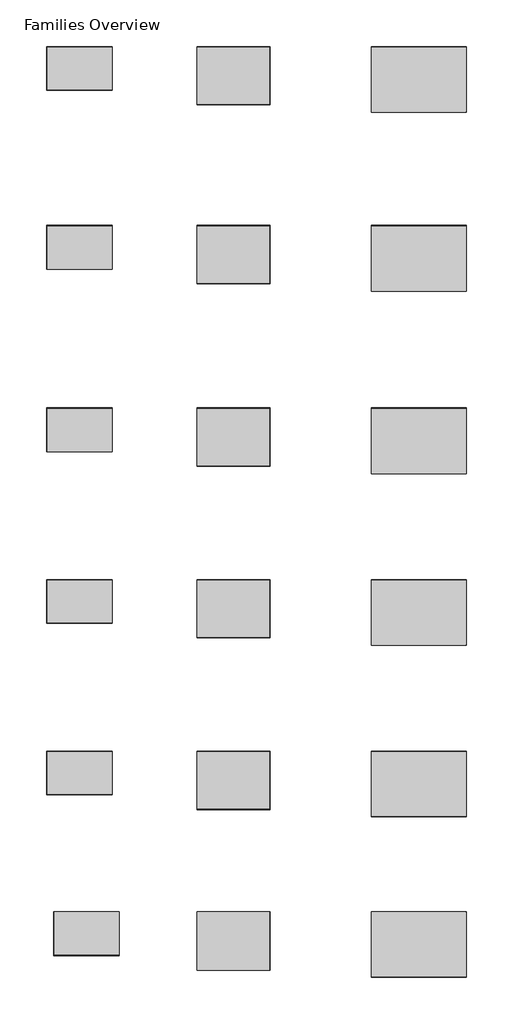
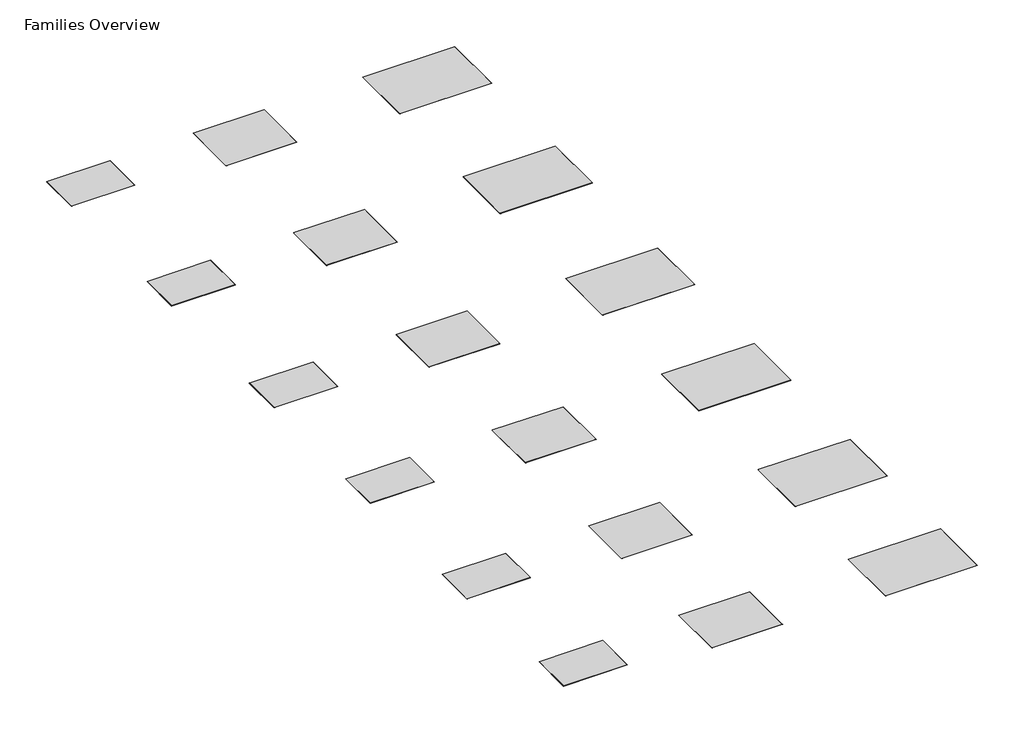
# One storey: 18 furniture elements.
"""IFC4 building model written with IfcOpenShell, lengths in millimetres."""

from ifc_helpers import new_model, si_unit, origin, place, context, project, spatial, transform, mapped, element, save
from components import furniture_6ft_x_9ft_9712701d, furniture_6ft_x_9ft_4e608421, furniture_8ft_x_10ft_1f9c8995, furniture_8ft_x_10ft_a33dcf98, furniture_9ft_x_13ft_89a116fc, furniture_9ft_x_13ft_9fe98341

model = new_model("IFC4")

# Units and contexts
model_context = context("Model", 3, world=origin())
ifc_project = project(units=[si_unit("LENGTHUNIT", "METRE", prefix="MILLI")], contexts=[model_context])

# Site, building, storey
site = spatial("IfcSite", under=ifc_project)
building = spatial("IfcBuilding", under=site)
storey = spatial("IfcBuildingStorey", under=building, Name="Families Overview", Elevation=0.0)

# Furniture
placement = place(None, origin())
furniture_6ft_x_9ft_shape = furniture_6ft_x_9ft_9712701d(model_context)
element("IfcFurniture", 1, ObjectType="Coalesse_AM_Accessory_Rug_Nanimarquina_Basket : 6ft x 9ft", at=placement, inside=storey, context=model_context, shape_type="MappedRepresentation", body=[
    mapped(furniture_6ft_x_9ft_shape, transform((-34713.5259654, 39384.3349455, 0.0), x_axis=(1.0, 0.0, 0.0), y_axis=(0.0, 1.0, 0.0), z_axis=(0.0, 0.0, 1.0))),
])
element("IfcFurniture", 2, ObjectType="Coalesse_AM_Accessory_Rug_Nanimarquina_Shadows : 6ft x 9ft", at=placement, inside=storey, context=model_context, shape_type="MappedRepresentation", body=[
    mapped(furniture_6ft_x_9ft_shape, transform((-34713.5259654, 31915.1559258, 0.0), x_axis=(1.0, 0.0, 0.0), y_axis=(0.0, 1.0, 0.0), z_axis=(0.0, 0.0, 1.0))),
])
element("IfcFurniture", 3, ObjectType="Coalesse_AM_Accessory_Rug_Nanimarquina_Strokes : 6ft x 9ft", at=placement, inside=storey, context=model_context, shape_type="MappedRepresentation", body=[
    mapped(furniture_6ft_x_9ft_shape, transform((-34713.5259654, 24295.1559258, 0.0), x_axis=(1.0, 0.0, 0.0), y_axis=(0.0, 1.0, 0.0), z_axis=(0.0, 0.0, 1.0))),
])
element("IfcFurniture", 4, ObjectType="Coalesse_AM_Accessory_Rug_Nanimarquina_Patch : 6ft x 9ft", at=placement, inside=storey, context=model_context, shape_type="MappedRepresentation", body=[
    mapped(furniture_6ft_x_9ft_shape, transform((-34713.5259654, 17132.3559258, 0.0), x_axis=(1.0, 0.0, 0.0), y_axis=(0.0, 1.0, 0.0), z_axis=(0.0, 0.0, 1.0))),
])
furniture_6ft_x_9ft_2_shape = furniture_6ft_x_9ft_4e608421(model_context)
element("IfcFurniture", 5, ObjectType="Coalesse_AM_Accessory_Rug_Nanimarquina_Diagonal : 6ft x 9ft", at=placement, inside=storey, context=model_context, shape_type="MappedRepresentation", body=[
    mapped(furniture_6ft_x_9ft_2_shape, transform((-34713.5259654, 9969.5559258, 0.0), x_axis=(1.0, 0.0, 0.0), y_axis=(0.0, 1.0, 0.0), z_axis=(0.0, 0.0, 1.0))),
])
element("IfcFurniture", 6, ObjectType="Coalesse_AM_Accessory_Rug_Nanimarquina_Mesh : 6ft x 9ft", at=placement, inside=storey, context=model_context, shape_type="MappedRepresentation", body=[
    mapped(furniture_6ft_x_9ft_shape, transform((-34422.3599147, 3263.9559258, 0.0), x_axis=(1.0, 0.0, 0.0), y_axis=(0.0, 1.0, 0.0), z_axis=(0.0, 0.0, 1.0))),
])
furniture_8ft_x_10ft_shape = furniture_8ft_x_10ft_1f9c8995(model_context)
element("IfcFurniture", 7, ObjectType="Coalesse_AM_Accessory_Rug_Nanimarquina_Basket : 8ft x 10ft", at=placement, inside=storey, context=model_context, shape_type="MappedRepresentation", body=[
    mapped(furniture_8ft_x_10ft_shape, transform((-28417.8438874, 39384.3349455, 0.0), x_axis=(1.0, 0.0, 0.0), y_axis=(0.0, 1.0, 0.0), z_axis=(0.0, 0.0, 1.0))),
])
element("IfcFurniture", 8, ObjectType="Coalesse_AM_Accessory_Rug_Nanimarquina_Shadows : 8ft x 10ft", at=placement, inside=storey, context=model_context, shape_type="MappedRepresentation", body=[
    mapped(furniture_8ft_x_10ft_shape, transform((-28417.8438874, 31915.1559258, 0.0), x_axis=(1.0, 0.0, 0.0), y_axis=(0.0, 1.0, 0.0), z_axis=(0.0, 0.0, 1.0))),
])
element("IfcFurniture", 9, ObjectType="Coalesse_AM_Accessory_Rug_Nanimarquina_Strokes : 8ft x 10ft", at=placement, inside=storey, context=model_context, shape_type="MappedRepresentation", body=[
    mapped(furniture_8ft_x_10ft_shape, transform((-28417.8438874, 24295.1559258, 0.0), x_axis=(1.0, 0.0, 0.0), y_axis=(0.0, 1.0, 0.0), z_axis=(0.0, 0.0, 1.0))),
])
element("IfcFurniture", 10, ObjectType="Coalesse_AM_Accessory_Rug_Nanimarquina_Patch : 8ft x 10ft", at=placement, inside=storey, context=model_context, shape_type="MappedRepresentation", body=[
    mapped(furniture_8ft_x_10ft_shape, transform((-28417.8438874, 17132.3559258, 0.0), x_axis=(1.0, 0.0, 0.0), y_axis=(0.0, 1.0, 0.0), z_axis=(0.0, 0.0, 1.0))),
])
furniture_8ft_x_10ft_2_shape = furniture_8ft_x_10ft_a33dcf98(model_context)
element("IfcFurniture", 11, ObjectType="Coalesse_AM_Accessory_Rug_Nanimarquina_Diagonal : 8ft x 10ft", at=placement, inside=storey, context=model_context, shape_type="MappedRepresentation", body=[
    mapped(furniture_8ft_x_10ft_2_shape, transform((-28417.8438874, 9969.5559258, 0.0), x_axis=(1.0, 0.0, 0.0), y_axis=(0.0, 1.0, 0.0), z_axis=(0.0, 0.0, 1.0))),
])
element("IfcFurniture", 12, ObjectType="Coalesse_AM_Accessory_Rug_Nanimarquina_Mesh : 8ft x 10ft", at=placement, inside=storey, context=model_context, shape_type="MappedRepresentation", body=[
    mapped(furniture_8ft_x_10ft_shape, transform((-28417.8438874, 3263.9559258, 0.0), x_axis=(1.0, 0.0, 0.0), y_axis=(0.0, 1.0, 0.0), z_axis=(0.0, 0.0, 1.0))),
])
furniture_9ft_x_13ft_shape = furniture_9ft_x_13ft_89a116fc(model_context)
element("IfcFurniture", 13, ObjectType="Coalesse_AM_Accessory_Rug_Nanimarquina_Basket : 9ft x 13ft", at=placement, inside=storey, context=model_context, shape_type="MappedRepresentation", body=[
    mapped(furniture_9ft_x_13ft_shape, transform((-21139.4969943, 39384.3349455, 0.0), x_axis=(1.0, 0.0, 0.0), y_axis=(0.0, 1.0, 0.0), z_axis=(0.0, 0.0, 1.0))),
])
element("IfcFurniture", 14, ObjectType="Coalesse_AM_Accessory_Rug_Nanimarquina_Shadows : 9ft x 13ft", at=placement, inside=storey, context=model_context, shape_type="MappedRepresentation", body=[
    mapped(furniture_9ft_x_13ft_shape, transform((-21139.4969943, 31915.1559258, 0.0), x_axis=(1.0, 0.0, 0.0), y_axis=(0.0, 1.0, 0.0), z_axis=(0.0, 0.0, 1.0))),
])
element("IfcFurniture", 15, ObjectType="Coalesse_AM_Accessory_Rug_Nanimarquina_Strokes : 9ft x 13ft", at=placement, inside=storey, context=model_context, shape_type="MappedRepresentation", body=[
    mapped(furniture_9ft_x_13ft_shape, transform((-21139.4969943, 24295.1559258, 0.0), x_axis=(1.0, 0.0, 0.0), y_axis=(0.0, 1.0, 0.0), z_axis=(0.0, 0.0, 1.0))),
])
element("IfcFurniture", 16, ObjectType="Coalesse_AM_Accessory_Rug_Nanimarquina_Patch : 9ft x 13ft", at=placement, inside=storey, context=model_context, shape_type="MappedRepresentation", body=[
    mapped(furniture_9ft_x_13ft_shape, transform((-21139.4969943, 17132.3559258, 0.0), x_axis=(1.0, 0.0, 0.0), y_axis=(0.0, 1.0, 0.0), z_axis=(0.0, 0.0, 1.0))),
])
furniture_9ft_x_13ft_2_shape = furniture_9ft_x_13ft_9fe98341(model_context)
element("IfcFurniture", 17, ObjectType="Coalesse_AM_Accessory_Rug_Nanimarquina_Diagonal : 9ft x 13ft", at=placement, inside=storey, context=model_context, shape_type="MappedRepresentation", body=[
    mapped(furniture_9ft_x_13ft_2_shape, transform((-21139.4969943, 9969.5559258, 0.0), x_axis=(1.0, 0.0, 0.0), y_axis=(0.0, 1.0, 0.0), z_axis=(0.0, 0.0, 1.0))),
])
element("IfcFurniture", 18, ObjectType="Coalesse_AM_Accessory_Rug_Nanimarquina_Mesh : 9ft x 13ft", at=placement, inside=storey, context=model_context, shape_type="MappedRepresentation", body=[
    mapped(furniture_9ft_x_13ft_shape, transform((-21139.4969943, 3263.9559258, 0.0), x_axis=(1.0, 0.0, 0.0), y_axis=(0.0, 1.0, 0.0), z_axis=(0.0, 0.0, 1.0))),
])

save(model, "model.ifc")
